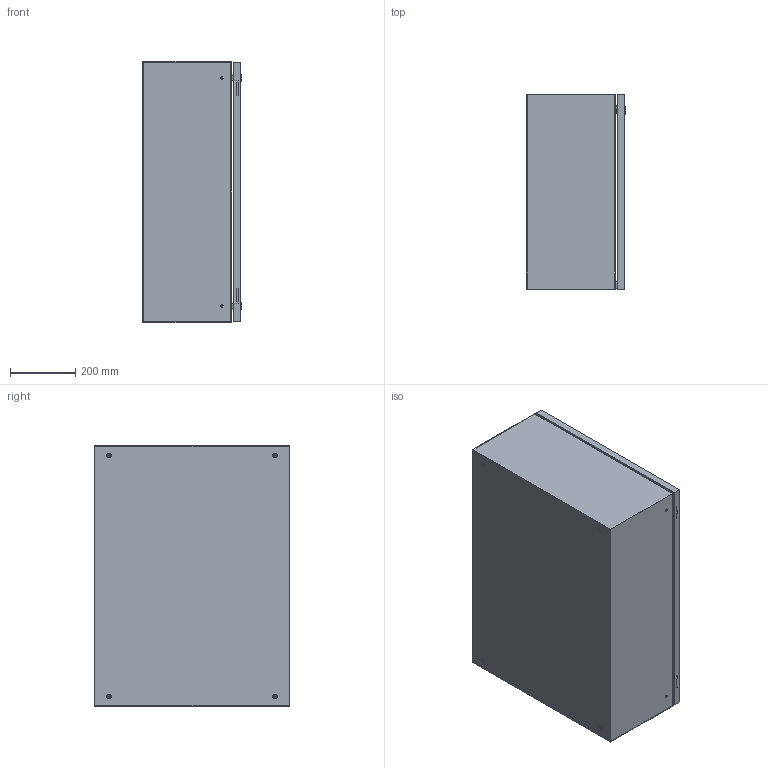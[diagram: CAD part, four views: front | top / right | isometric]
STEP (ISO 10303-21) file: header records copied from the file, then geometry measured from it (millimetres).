
FILE_DESCRIPTION(/* description */ ('Unknown'),/* implementation_level */ '2;1');
FILE_NAME(/* name */ 'CCA06008030',/* time_stamp */ '2024-07-31T16:27:59+02:00',/* author */ ('Unknown'),/* organization */ ('Unknown'),/* preprocessor_version */ 'ST-DEVELOPER v19.4',/* originating_system */ 'Solid Edge',/* authorisation */ 'Unknown');
FILE_SCHEMA (('AUTOMOTIVE_DESIGN {1 0 10303 214 3 1 1}'));
Length unit declared in the file: millimetre
Products named in the file (18): CCA06008030; C000X000.45; C000X000.46; C0000000.51; C0000000.08; C0000000.02; AE00198.02; AE00989.09; AE00417.01; C0000000.40; C000X000.44_oa_0; C0000000.25; C0000000.04; C0000000.05; AE00316.01; AE00601.01; AE00891.02; C0000000.01
Assembly tree (37 placements, depth 4):
  CCA06008030
    C000X000.45
      C000X000.46
        C0000000.51
        C0000000.08
      C0000000.02  x2
      AE00198.02  x2
      AE00989.09  x2
      AE00417.01  x2
    AE00198.02  x2
    C0000000.40
    C000X000.44_oa_0
      C0000000.25
      C0000000.04  x4
      C0000000.05  x4
      AE00316.01  x2
      AE00601.01  x2
      AE00891.02  x2
      C0000000.01  x2
      AE00417.01  x4
Bounding box: 305 x 600 x 800 mm (x, y, z)
Volume: 3148833.2 mm3; surface area: 3719382.7 mm2
Topology: 35 solids, 35 shells, 687 faces, 1668 edges, 1082 vertices
Faces by surface type: plane 447, cylinder 170, cone 36, torus 34
Full cylindrical faces by diameter (mm): 4 x2, 4.917 x6, 4.918 x2, 5.4 x2, 6 x14, 6.4 x2, 7.5 x6, 8 x4, 8.376 x8, 10 x6, 10.25 x4, 10.5 x4, 11 x2, 13.6 x2, 14 x4, 15 x4, 16 x4, 16.3 x2, 19.5 x2, 28 x2
Entity records: 12000 total; most frequent: CARTESIAN_POINT 1848, DIRECTION 1782, ORIENTED_EDGE 1636, EDGE_CURVE 818, AXIS2_PLACEMENT_3D 599, LINE 584, VECTOR 584, VERTEX_POINT 556
